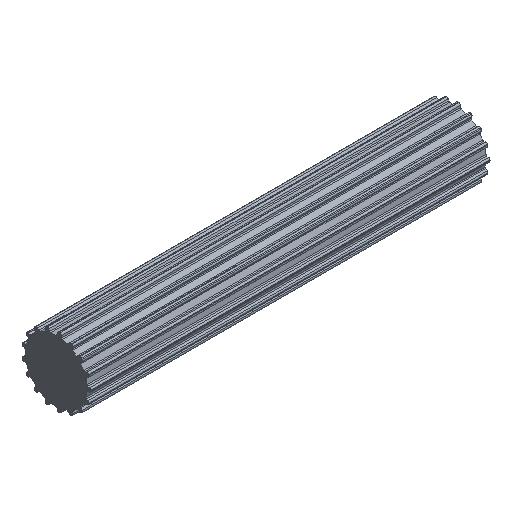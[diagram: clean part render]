
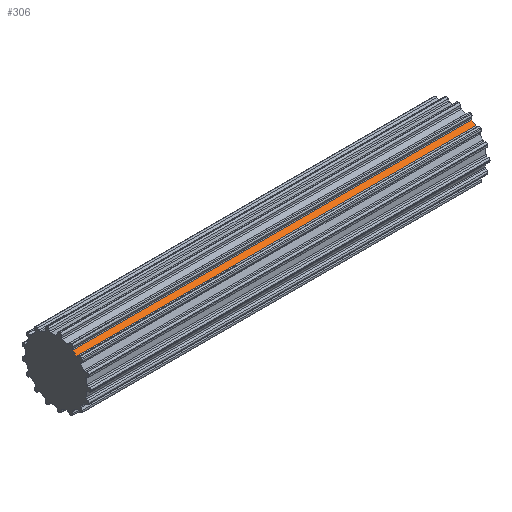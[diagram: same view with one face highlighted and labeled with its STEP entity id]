
A CAD part, isometric view. The second image highlights one B-rep face of the part: STEP entity #306.
In plain terms, the highlighted planar face has unit normal (0, -0.603, 0.798).
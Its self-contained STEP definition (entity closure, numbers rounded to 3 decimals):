
#306 = ADVANCED_FACE( '', ( #671 ), #672, .T. );
#671 = FACE_OUTER_BOUND( '', #1092, .T. );
#672 = PLANE( '', #1093 );
#1092 = EDGE_LOOP( '', ( #1999, #2000, #2001, #2002 ) );
#1093 = AXIS2_PLACEMENT_3D( '', #2003, #2004, #2005 );
#1999 = ORIENTED_EDGE( '', *, *, #2829, .F. );
#2000 = ORIENTED_EDGE( '', *, *, #2735, .F. );
#2001 = ORIENTED_EDGE( '', *, *, #3042, .T. );
#2002 = ORIENTED_EDGE( '', *, *, #3032, .T. );
#2003 = CARTESIAN_POINT( '', ( 75., -3.86, 4.309 ) );
#2004 = DIRECTION( '', ( 0., -0.603, 0.798 ) );
#2005 = DIRECTION( '', ( 0., -0.798, -0.603 ) );
#2735 = EDGE_CURVE( '', #3339, #3335, #3341, .T. );
#2829 = EDGE_CURVE( '', #3335, #3515, #3516, .T. );
#3032 = EDGE_CURVE( '', #3814, #3515, #3815, .T. );
#3042 = EDGE_CURVE( '', #3339, #3814, #3828, .T. );
#3335 = VERTEX_POINT( '', #4197 );
#3339 = VERTEX_POINT( '', #4202 );
#3341 = LINE( '', #4204, #4205 );
#3515 = VERTEX_POINT( '', #4417 );
#3516 = LINE( '', #4418, #4419 );
#3814 = VERTEX_POINT( '', #4806 );
#3815 = LINE( '', #4807, #4808 );
#3828 = LINE( '', #4824, #4825 );
#4197 = CARTESIAN_POINT( '', ( 0., -3.86, 4.309 ) );
#4202 = CARTESIAN_POINT( '', ( 75., -3.86, 4.309 ) );
#4204 = CARTESIAN_POINT( '', ( 75., -3.86, 4.309 ) );
#4205 = VECTOR( '', #5171, 1000. );
#4417 = CARTESIAN_POINT( '', ( 0., -3.088, 4.892 ) );
#4418 = CARTESIAN_POINT( '', ( 0., -3.86, 4.309 ) );
#4419 = VECTOR( '', #5363, 1000. );
#4806 = CARTESIAN_POINT( '', ( 75., -3.088, 4.892 ) );
#4807 = CARTESIAN_POINT( '', ( 75., -3.088, 4.892 ) );
#4808 = VECTOR( '', #5642, 1000. );
#4824 = CARTESIAN_POINT( '', ( 75., -3.86, 4.309 ) );
#4825 = VECTOR( '', #5655, 1000. );
#5171 = DIRECTION( '', ( -1., 0., 0. ) );
#5363 = DIRECTION( '', ( 0., 0.798, 0.603 ) );
#5642 = DIRECTION( '', ( -1., 0., 0. ) );
#5655 = DIRECTION( '', ( 0., 0.798, 0.603 ) );
